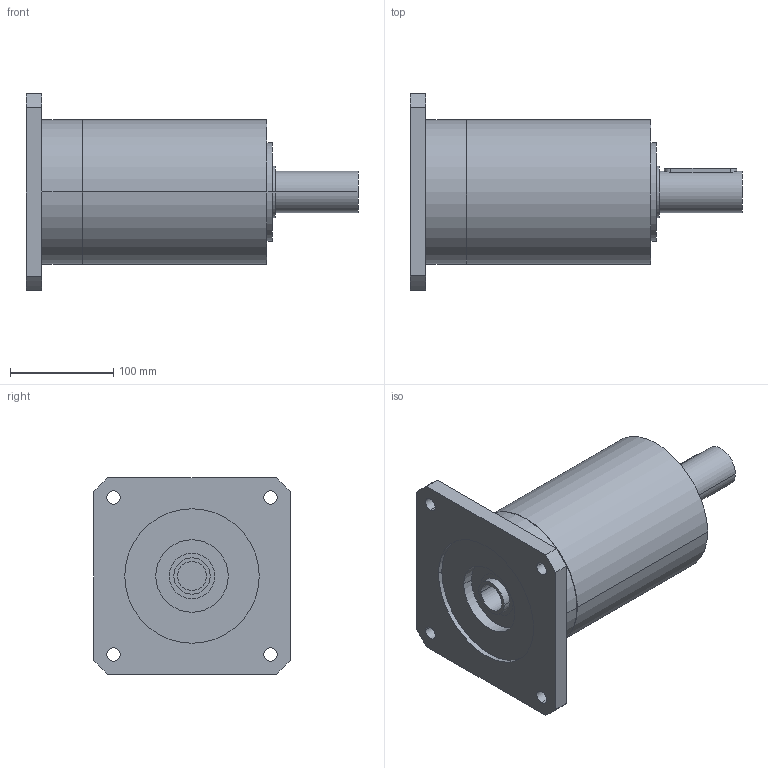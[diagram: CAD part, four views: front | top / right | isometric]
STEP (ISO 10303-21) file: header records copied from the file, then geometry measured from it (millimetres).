
FILE_DESCRIPTION(('CoCreate Modeling STEP Export'),'2;1');
FILE_NAME('GPR150_ig-9-12-16-20-28-35_40_B14_28_P13.stp','2014-08-19T17:03:52',(''),(''),'CoCreate Modeling STEP processor for AP214 (Solid Model)','CoCreate Modeling 16.00C 25-Feb-2009 (C) Parametric Technology GmbH','');
FILE_SCHEMA(('AUTOMOTIVE_DESIGN { 1 0 10303 214 1 1 1 1 }'));
Length unit declared in the file: millimetre
Products named in the file (2): GPR150_ig-9-12-16-20-28-35_40_B14_28_P13
Assembly tree (1 placements, depth 2):
  GPR150_ig-9-12-16-20-28-35_40_B14_28_P13
    GPR150_ig-9-12-16-20-28-35_40_B14_28_P13
Bounding box: 321 x 190 x 190 mm (x, y, z)
Volume: 3874229.1 mm3; surface area: 209467 mm2
Topology: 1 solids, 1 shells, 73 faces, 195 edges, 137 vertices
Faces by surface type: cylinder 44, plane 23, cone 6
Entity records: 2033 total; most frequent: CARTESIAN_POINT 395, ORIENTED_EDGE 386, DIRECTION 272, EDGE_CURVE 193, VERTEX_POINT 137, AXIS2_PLACEMENT_3D 102, EDGE_LOOP 96, FACE_OUTER_BOUND 73
